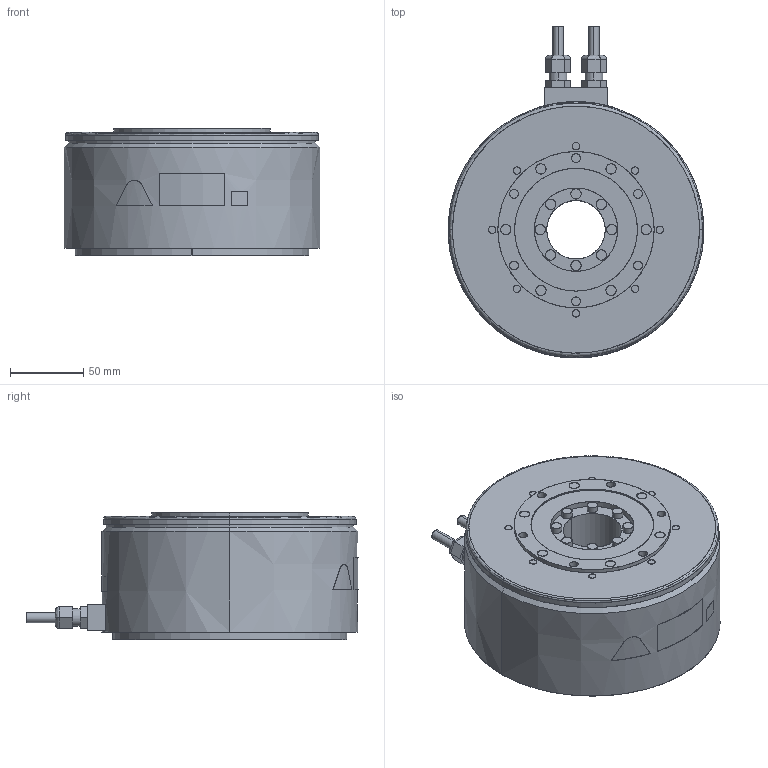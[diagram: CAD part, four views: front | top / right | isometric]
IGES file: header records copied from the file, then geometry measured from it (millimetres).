
Start section: SolidWorks IGES file using analytic representation for surfaces
Global section: file name: D:\YASKAWA\sgm7f_17c_a4_.IGS; native system: SolidWorks 2006 by SolidWorks Corporation; preprocessor: SolidWorks 2006 by SolidWorks Corporation; author: yamanouchi; date: 160724.152707; units: millimetre
Bounding box: 175 x 227.2 x 87 mm (x, y, z)
Surface area: 138457.5 mm2 (no closed solid volume)
Topology: 0 solids, 0 shells, 247 faces, 5412 edges, 5412 vertices
Faces by surface type: revolution 139, bspline 108
